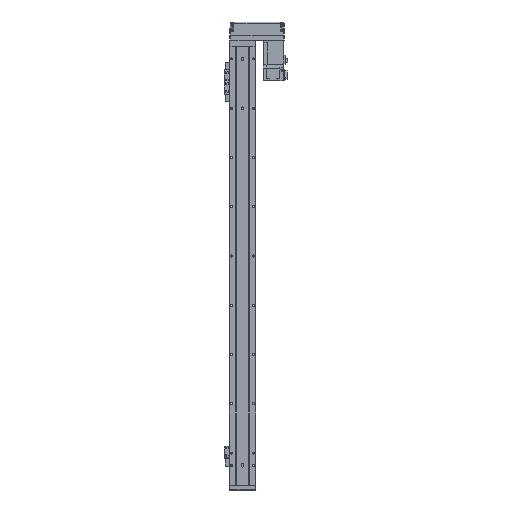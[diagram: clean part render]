
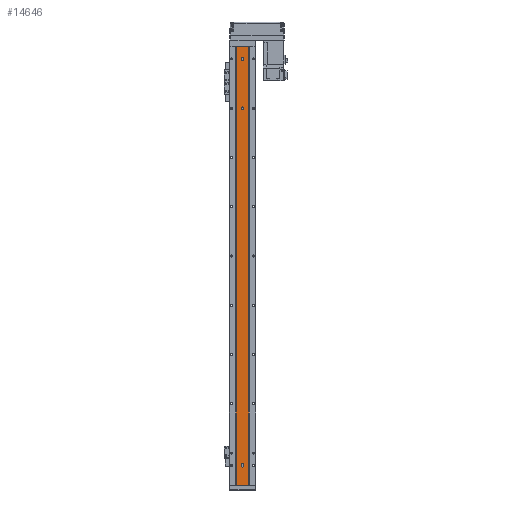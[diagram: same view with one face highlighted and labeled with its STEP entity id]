
A CAD part, front view. The second image highlights one B-rep face of the part: STEP entity #14646.
In plain terms, the highlighted planar face has unit normal (0, -1, 0).
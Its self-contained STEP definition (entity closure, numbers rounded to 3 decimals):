
#387 = DIRECTION ( 'NONE',  ( 0., 0., -1. ) ) ;
#466 = CARTESIAN_POINT ( 'NONE',  ( 2.5, 1.5, -890. ) ) ;
#673 = CARTESIAN_POINT ( 'NONE',  ( 0., 1.5, -25. ) ) ;
#680 = VERTEX_POINT ( 'NONE', #14030 ) ;
#736 = DIRECTION ( 'NONE',  ( 0., 0., 1. ) ) ;
#767 = FACE_BOUND ( 'NONE', #15949, .T. ) ;
#1214 = CARTESIAN_POINT ( 'NONE',  ( -2.5, 1.5, -849. ) ) ;
#1247 = FACE_OUTER_BOUND ( 'NONE', #25144, .T. ) ;
#1883 = VECTOR ( 'NONE', #387, 1000. ) ;
#2118 = DIRECTION ( 'NONE',  ( 1., 0., 0. ) ) ;
#2426 = CARTESIAN_POINT ( 'NONE',  ( -2.5, 1.5, -851. ) ) ;
#3214 = CARTESIAN_POINT ( 'NONE',  ( 12.293, 1.5, 0. ) ) ;
#3270 = DIRECTION ( 'NONE',  ( 1., 0., 0. ) ) ;
#3289 = ORIENTED_EDGE ( 'NONE', *, *, #38646, .T. ) ;
#3969 = ORIENTED_EDGE ( 'NONE', *, *, #38668, .F. ) ;
#3991 = DIRECTION ( 'NONE',  ( 1., 0., 0. ) ) ;
#4233 = DIRECTION ( 'NONE',  ( 0., -1., 0. ) ) ;
#4360 = AXIS2_PLACEMENT_3D ( 'NONE', #34459, #4233, #10398 ) ;
#4365 = EDGE_CURVE ( 'NONE', #6216, #36446, #32854, .T. ) ;
#5654 = ORIENTED_EDGE ( 'NONE', *, *, #28768, .F. ) ;
#5818 = ORIENTED_EDGE ( 'NONE', *, *, #33031, .T. ) ;
#6005 = LINE ( 'NONE', #19329, #12150 ) ;
#6083 = LINE ( 'NONE', #6109, #25287 ) ;
#6109 = CARTESIAN_POINT ( 'NONE',  ( 12.293, 1.5, -890. ) ) ;
#6216 = VERTEX_POINT ( 'NONE', #25520 ) ;
#6470 = AXIS2_PLACEMENT_3D ( 'NONE', #28342, #34858, #19360 ) ;
#6825 = ORIENTED_EDGE ( 'NONE', *, *, #25448, .F. ) ;
#7124 = VERTEX_POINT ( 'NONE', #25964 ) ;
#7266 = DIRECTION ( 'NONE',  ( 0., -1., 0. ) ) ;
#7429 = CARTESIAN_POINT ( 'NONE',  ( -2.5, 1.5, -125. ) ) ;
#8577 = ORIENTED_EDGE ( 'NONE', *, *, #19185, .F. ) ;
#8659 = ORIENTED_EDGE ( 'NONE', *, *, #4365, .F. ) ;
#10398 = DIRECTION ( 'NONE',  ( 1., 0., 0. ) ) ;
#10409 = DIRECTION ( 'NONE',  ( 0., -1., 0. ) ) ;
#10490 = CARTESIAN_POINT ( 'NONE',  ( 2.5, 1.5, -125. ) ) ;
#10509 = AXIS2_PLACEMENT_3D ( 'NONE', #34178, #10628, #19318 ) ;
#10628 = DIRECTION ( 'NONE',  ( 0., -1., 0. ) ) ;
#10674 = PLANE ( 'NONE',  #6470 ) ;
#10865 = VERTEX_POINT ( 'NONE', #18988 ) ;
#11017 = DIRECTION ( 'NONE',  ( 0., -1., 0. ) ) ;
#11394 = CARTESIAN_POINT ( 'NONE',  ( -2.5, 1.5, -890. ) ) ;
#11481 = EDGE_CURVE ( 'NONE', #32771, #33311, #35722, .T. ) ;
#12150 = VECTOR ( 'NONE', #19571, 1000. ) ;
#13779 = EDGE_CURVE ( 'NONE', #15197, #33566, #34173, .T. ) ;
#14030 = CARTESIAN_POINT ( 'NONE',  ( 2.5, 1.5, -851. ) ) ;
#14557 = CARTESIAN_POINT ( 'NONE',  ( -12.293, 1.5, -890. ) ) ;
#14646 = ADVANCED_FACE ( 'NONE', ( #33094, #767, #21426, #1247 ), #10674, .T. ) ;
#14972 = AXIS2_PLACEMENT_3D ( 'NONE', #34586, #10409, #16704 ) ;
#15039 = AXIS2_PLACEMENT_3D ( 'NONE', #16070, #7266, #3991 ) ;
#15041 = DIRECTION ( 'NONE',  ( 0., 0., 1. ) ) ;
#15197 = VERTEX_POINT ( 'NONE', #1214 ) ;
#15949 = EDGE_LOOP ( 'NONE', ( #30023, #28863 ) ) ;
#16070 = CARTESIAN_POINT ( 'NONE',  ( 0., 1.5, -125. ) ) ;
#16704 = DIRECTION ( 'NONE',  ( 1., 0., 0. ) ) ;
#17138 = EDGE_CURVE ( 'NONE', #33566, #680, #38703, .T. ) ;
#17882 = VECTOR ( 'NONE', #28861, 1000. ) ;
#18251 = CIRCLE ( 'NONE', #24609, 2.5 ) ;
#18564 = VERTEX_POINT ( 'NONE', #22534 ) ;
#18988 = CARTESIAN_POINT ( 'NONE',  ( 12.293, 1.5, -890. ) ) ;
#19185 = EDGE_CURVE ( 'NONE', #18564, #22930, #28129, .T. ) ;
#19318 = DIRECTION ( 'NONE',  ( 1., 0., 0. ) ) ;
#19329 = CARTESIAN_POINT ( 'NONE',  ( 12.293, 1.5, -890. ) ) ;
#19360 = DIRECTION ( 'NONE',  ( 1., 0., 0. ) ) ;
#19513 = EDGE_LOOP ( 'NONE', ( #8659, #5654 ) ) ;
#19571 = DIRECTION ( 'NONE',  ( 1., 0., 0. ) ) ;
#19868 = CARTESIAN_POINT ( 'NONE',  ( 12.293, 1.5, 0. ) ) ;
#20542 = ORIENTED_EDGE ( 'NONE', *, *, #31438, .F. ) ;
#21259 = DIRECTION ( 'NONE',  ( 0., -1., 0. ) ) ;
#21426 = FACE_BOUND ( 'NONE', #19513, .T. ) ;
#22534 = CARTESIAN_POINT ( 'NONE',  ( -12.293, 1.5, 0. ) ) ;
#22672 = ORIENTED_EDGE ( 'NONE', *, *, #17138, .F. ) ;
#22930 = VERTEX_POINT ( 'NONE', #3214 ) ;
#23437 = CIRCLE ( 'NONE', #28787, 2.5 ) ;
#24609 = AXIS2_PLACEMENT_3D ( 'NONE', #32053, #11017, #2118 ) ;
#25144 = EDGE_LOOP ( 'NONE', ( #8577, #20542, #3289, #5818 ) ) ;
#25287 = VECTOR ( 'NONE', #15041, 1000. ) ;
#25448 = EDGE_CURVE ( 'NONE', #680, #7124, #38661, .T. ) ;
#25520 = CARTESIAN_POINT ( 'NONE',  ( 2.5, 1.5, -25. ) ) ;
#25964 = CARTESIAN_POINT ( 'NONE',  ( 2.5, 1.5, -849. ) ) ;
#26318 = DIRECTION ( 'NONE',  ( 0., 0., 1. ) ) ;
#26434 = CARTESIAN_POINT ( 'NONE',  ( -12.293, 1.5, -890. ) ) ;
#28129 = LINE ( 'NONE', #19868, #17882 ) ;
#28342 = CARTESIAN_POINT ( 'NONE',  ( 12.293, 1.5, -890. ) ) ;
#28477 = VERTEX_POINT ( 'NONE', #26434 ) ;
#28768 = EDGE_CURVE ( 'NONE', #36446, #6216, #23437, .T. ) ;
#28787 = AXIS2_PLACEMENT_3D ( 'NONE', #673, #21259, #3270 ) ;
#28861 = DIRECTION ( 'NONE',  ( 1., 0., 0. ) ) ;
#28863 = ORIENTED_EDGE ( 'NONE', *, *, #30006, .F. ) ;
#30006 = EDGE_CURVE ( 'NONE', #33311, #32771, #34417, .T. ) ;
#30023 = ORIENTED_EDGE ( 'NONE', *, *, #11481, .F. ) ;
#30531 = LINE ( 'NONE', #14557, #32910 ) ;
#31273 = CARTESIAN_POINT ( 'NONE',  ( -2.5, 1.5, -25. ) ) ;
#31438 = EDGE_CURVE ( 'NONE', #28477, #18564, #30531, .T. ) ;
#32053 = CARTESIAN_POINT ( 'NONE',  ( 0., 1.5, -849. ) ) ;
#32594 = ORIENTED_EDGE ( 'NONE', *, *, #13779, .F. ) ;
#32771 = VERTEX_POINT ( 'NONE', #10490 ) ;
#32854 = CIRCLE ( 'NONE', #14972, 2.5 ) ;
#32910 = VECTOR ( 'NONE', #26318, 1000. ) ;
#33031 = EDGE_CURVE ( 'NONE', #10865, #22930, #6083, .T. ) ;
#33094 = FACE_BOUND ( 'NONE', #34643, .T. ) ;
#33311 = VERTEX_POINT ( 'NONE', #7429 ) ;
#33566 = VERTEX_POINT ( 'NONE', #2426 ) ;
#34173 = LINE ( 'NONE', #11394, #1883 ) ;
#34178 = CARTESIAN_POINT ( 'NONE',  ( 0., 1.5, -125. ) ) ;
#34417 = CIRCLE ( 'NONE', #15039, 2.5 ) ;
#34459 = CARTESIAN_POINT ( 'NONE',  ( 0., 1.5, -851. ) ) ;
#34586 = CARTESIAN_POINT ( 'NONE',  ( 0., 1.5, -25. ) ) ;
#34643 = EDGE_LOOP ( 'NONE', ( #22672, #32594, #3969, #6825 ) ) ;
#34858 = DIRECTION ( 'NONE',  ( 0., -1., 0. ) ) ;
#34915 = VECTOR ( 'NONE', #736, 1000. ) ;
#35722 = CIRCLE ( 'NONE', #10509, 2.5 ) ;
#36446 = VERTEX_POINT ( 'NONE', #31273 ) ;
#38646 = EDGE_CURVE ( 'NONE', #28477, #10865, #6005, .T. ) ;
#38661 = LINE ( 'NONE', #466, #34915 ) ;
#38668 = EDGE_CURVE ( 'NONE', #7124, #15197, #18251, .T. ) ;
#38703 = CIRCLE ( 'NONE', #4360, 2.5 ) ;
